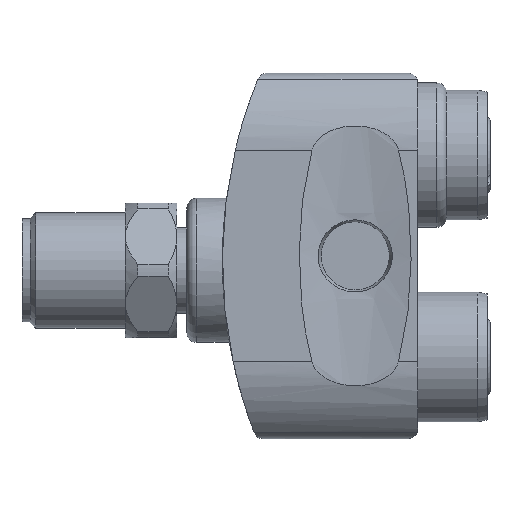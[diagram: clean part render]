
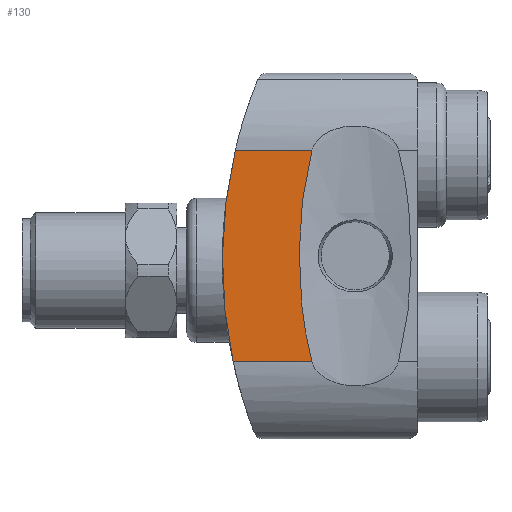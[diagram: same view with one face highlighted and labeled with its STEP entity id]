
A CAD part, top view. The second image highlights one B-rep face of the part: STEP entity #130.
In plain terms, the highlighted planar face has unit normal (0, 0, 1).
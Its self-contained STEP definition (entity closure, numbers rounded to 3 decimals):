
#130 = ADVANCED_FACE( '', ( #309 ), #310, .T. );
#309 = FACE_OUTER_BOUND( '', #588, .T. );
#310 = PLANE( '', #589 );
#588 = EDGE_LOOP( '', ( #1066, #1067, #1068, #1069 ) );
#589 = AXIS2_PLACEMENT_3D( '', #1070, #1071, #1072 );
#1066 = ORIENTED_EDGE( '', *, *, #1475, .F. );
#1067 = ORIENTED_EDGE( '', *, *, #1557, .F. );
#1068 = ORIENTED_EDGE( '', *, *, #1450, .T. );
#1069 = ORIENTED_EDGE( '', *, *, #1499, .T. );
#1070 = CARTESIAN_POINT( '', ( -15.683, 18., 8. ) );
#1071 = DIRECTION( '', ( 0., 0., 1. ) );
#1072 = DIRECTION( '', ( 1., 0., 0. ) );
#1450 = EDGE_CURVE( '', #1683, #1703, #1705, .T. );
#1475 = EDGE_CURVE( '', #1746, #1748, #1749, .T. );
#1499 = EDGE_CURVE( '', #1703, #1748, #1793, .T. );
#1557 = EDGE_CURVE( '', #1683, #1746, #1890, .T. );
#1683 = VERTEX_POINT( '', #2159 );
#1703 = VERTEX_POINT( '', #2228 );
#1705 = CIRCLE( '', #2243, 50. );
#1746 = VERTEX_POINT( '', #2385 );
#1748 = VERTEX_POINT( '', #2414 );
#1749 = B_SPLINE_CURVE_WITH_KNOTS( '', 3, ( #2415, #2416, #2417, #2418, #2419, #2420, #2421, #2422, #2423, #2424, #2425, #2426, #2427, #2428, #2429, #2430, #2431, #2432, #2433, #2434, #2435, #2436 ), .UNSPECIFIED., .F., .F., ( 4, 2, 2, 2, 2, 2, 2, 2, 2, 2, 4 ), ( 0.066, 0.069, 0.072, 0.075, 0.077, 0.078, 0.079, 0.08, 0.083, 0.086, 0.088 ), .UNSPECIFIED. );
#1793 = LINE( '', #2715, #2716 );
#1890 = LINE( '', #2973, #2974 );
#2159 = CARTESIAN_POINT( '', ( -18.97, 11., 8. ) );
#2228 = CARTESIAN_POINT( '', ( -19.195, -11., 8. ) );
#2243 = AXIS2_PLACEMENT_3D( '', #3193, #3194, #3195 );
#2385 = CARTESIAN_POINT( '', ( -10.997, 11., 8. ) );
#2414 = CARTESIAN_POINT( '', ( -10.997, -11., 8. ) );
#2415 = CARTESIAN_POINT( '', ( -10.997, 11., 8. ) );
#2416 = CARTESIAN_POINT( '', ( -11.239, 10.11, 8. ) );
#2417 = CARTESIAN_POINT( '', ( -11.437, 9.211, 8. ) );
#2418 = CARTESIAN_POINT( '', ( -11.767, 7.401, 8. ) );
#2419 = CARTESIAN_POINT( '', ( -11.899, 6.489, 8. ) );
#2420 = CARTESIAN_POINT( '', ( -12.108, 4.654, 8. ) );
#2421 = CARTESIAN_POINT( '', ( -12.185, 3.73, 8. ) );
#2422 = CARTESIAN_POINT( '', ( -12.287, 1.879, 8. ) );
#2423 = CARTESIAN_POINT( '', ( -12.313, 0.952, 8. ) );
#2424 = CARTESIAN_POINT( '', ( -12.313, -0.207, 8. ) );
#2425 = CARTESIAN_POINT( '', ( -12.312, -0.441, 8. ) );
#2426 = CARTESIAN_POINT( '', ( -12.306, -0.906, 8. ) );
#2427 = CARTESIAN_POINT( '', ( -12.301, -1.139, 8. ) );
#2428 = CARTESIAN_POINT( '', ( -12.282, -1.836, 8. ) );
#2429 = CARTESIAN_POINT( '', ( -12.264, -2.3, 8. ) );
#2430 = CARTESIAN_POINT( '', ( -12.188, -3.689, 8. ) );
#2431 = CARTESIAN_POINT( '', ( -12.112, -4.612, 8. ) );
#2432 = CARTESIAN_POINT( '', ( -11.905, -6.451, 8. ) );
#2433 = CARTESIAN_POINT( '', ( -11.773, -7.367, 8. ) );
#2434 = CARTESIAN_POINT( '', ( -11.442, -9.19, 8. ) );
#2435 = CARTESIAN_POINT( '', ( -11.243, -10.098, 8. ) );
#2436 = CARTESIAN_POINT( '', ( -10.997, -11., 8. ) );
#2715 = CARTESIAN_POINT( '', ( -25., -11., 8. ) );
#2716 = VECTOR( '', #3229, 1000. );
#2973 = CARTESIAN_POINT( '', ( -25., 11., 8. ) );
#2974 = VECTOR( '', #3334, 1000. );
#3193 = CARTESIAN_POINT( '', ( 29.69, -0.5, 8. ) );
#3194 = DIRECTION( '', ( 0., 0., 1. ) );
#3195 = DIRECTION( '', ( 1., 0., 0. ) );
#3229 = DIRECTION( '', ( 1., 0., 0. ) );
#3334 = DIRECTION( '', ( 1., 0., 0. ) );
